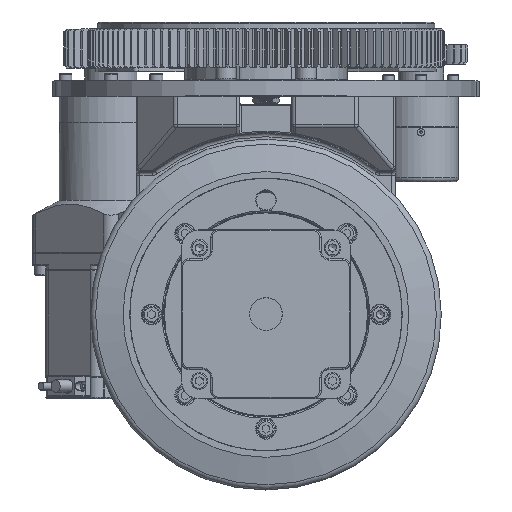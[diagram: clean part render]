
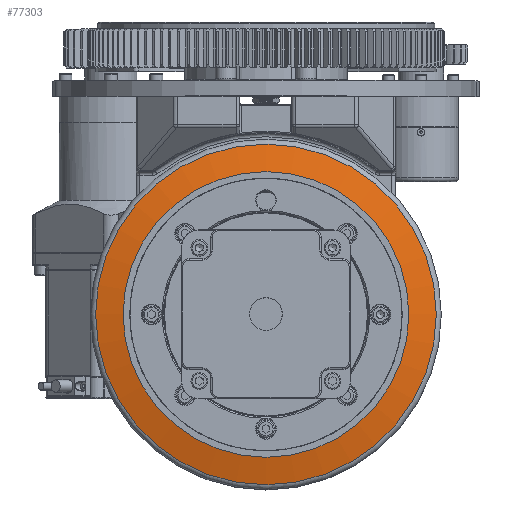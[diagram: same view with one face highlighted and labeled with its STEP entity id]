
A CAD part, top view. The second image highlights one B-rep face of the part: STEP entity #77303.
In plain terms, the highlighted conical face has half-angle 77 degrees and reference radius 110 mm.
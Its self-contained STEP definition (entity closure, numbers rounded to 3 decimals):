
#617 = ORIENTED_EDGE ( 'NONE', *, *, #11208, .T. ) ;
#4692 = DIRECTION ( 'NONE',  ( -1., 0., 0. ) ) ;
#9637 = CARTESIAN_POINT ( 'NONE',  ( -100., -200.5, 92. ) ) ;
#11208 = EDGE_CURVE ( 'NONE', #69780, #69780, #122207, .T. ) ;
#17708 = FACE_OUTER_BOUND ( 'NONE', #42009, .T. ) ;
#19130 = AXIS2_PLACEMENT_3D ( 'NONE', #9637, #102875, #47200 ) ;
#24982 = AXIS2_PLACEMENT_3D ( 'NONE', #61272, #108699, #4692 ) ;
#30361 = CARTESIAN_POINT ( 'NONE',  ( -210., -200.5, 92. ) ) ;
#42009 = EDGE_LOOP ( 'NONE', ( #71221 ) ) ;
#43837 = EDGE_CURVE ( 'NONE', #57749, #57749, #94582, .T. ) ;
#47163 = FACE_BOUND ( 'NONE', #103030, .T. ) ;
#47200 = DIRECTION ( 'NONE',  ( -1., 0., 0. ) ) ;
#52559 = CARTESIAN_POINT ( 'NONE',  ( -100., -200.5, 87.123 ) ) ;
#57749 = VERTEX_POINT ( 'NONE', #93699 ) ;
#59874 = CONICAL_SURFACE ( 'NONE', #19130, 110., 1.344 ) ;
#60815 = DIRECTION ( 'NONE',  ( 1., 0., 0. ) ) ;
#61272 = CARTESIAN_POINT ( 'NONE',  ( -100., -200.5, 92. ) ) ;
#69780 = VERTEX_POINT ( 'NONE', #30361 ) ;
#71221 = ORIENTED_EDGE ( 'NONE', *, *, #43837, .T. ) ;
#77303 = ADVANCED_FACE ( 'NONE', ( #17708, #47163 ), #59874, .T. ) ;
#80126 = DIRECTION ( 'NONE',  ( 0., 0., 1. ) ) ;
#88183 = AXIS2_PLACEMENT_3D ( 'NONE', #52559, #80126, #60815 ) ;
#93699 = CARTESIAN_POINT ( 'NONE',  ( 31.125, -200.5, 87.123 ) ) ;
#94582 = CIRCLE ( 'NONE', #88183, 131.125 ) ;
#102875 = DIRECTION ( 'NONE',  ( 0., 0., -1. ) ) ;
#103030 = EDGE_LOOP ( 'NONE', ( #617 ) ) ;
#108699 = DIRECTION ( 'NONE',  ( 0., 0., -1. ) ) ;
#122207 = CIRCLE ( 'NONE', #24982, 110. ) ;
